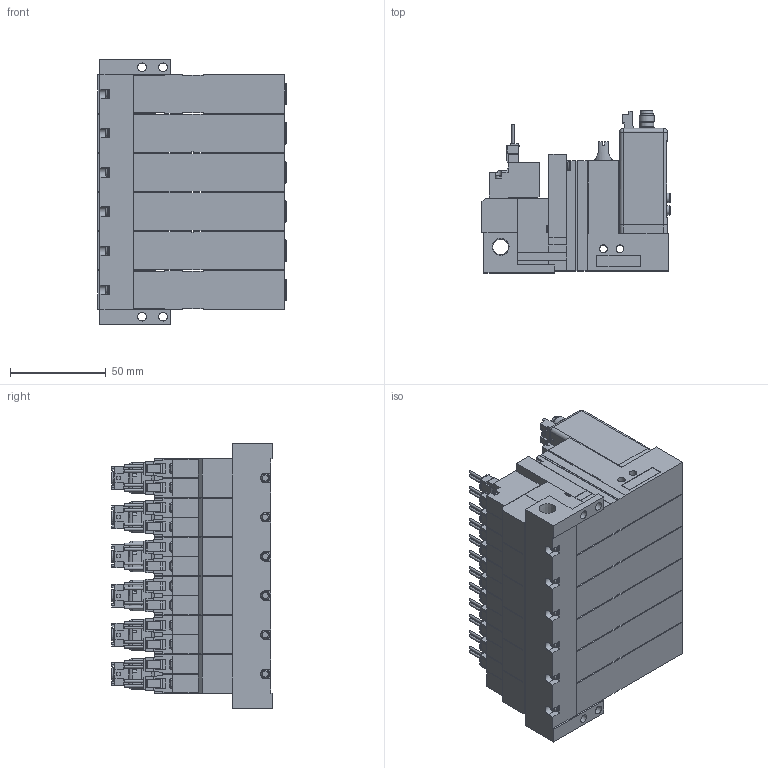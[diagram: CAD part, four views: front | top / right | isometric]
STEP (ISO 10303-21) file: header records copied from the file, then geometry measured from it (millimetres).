
FILE_DESCRIPTION(('STEP AP203'),'1');
FILE_NAME('22_22PLC5BLR606.stp','2025-06-12T05:00:05',(' '),(' '),'Spatial InterOp 3D',' ',' ');
FILE_SCHEMA(('CONFIG_CONTROL_DESIGN'));
Length unit declared in the file: millimetre
Products named in the file (10): BMC22M※※※※22_22PLC5BLR606; Solenoid valve B; Unit LC; Base MR60R; MVS-202
Assembly tree (19 placements, depth 2):
  BMC22M※※※※22_22PLC5BLR606
    Solenoid valve B  x6
    Unit LC  x6
    Base MR60R
    MVS-202
    MVS-202
    MVS-202
    MVS-202
    MVS-202
    MVS-202
Bounding box: 98.5 x 84.6 x 138.5 mm (x, y, z)
Volume: 651999.4 mm3; surface area: 185595 mm2
Topology: 19 solids, 43 shells, 4701 faces, 12257 edges, 7996 vertices
Faces by surface type: plane 3962, cylinder 569, cone 98, torus 48, sphere 24
Full cylindrical faces by diameter (mm): 1 x24, 1.4 x24, 1.5 x6, 2.5 x6, 3 x24, 3.5 x24, 3.6 x6, 4 x12, 4.134 x6, 4.5 x28, 4.8 x18, 5 x12, 5.2 x6, 5.8 x12, 6 x12, 6.5 x18, 6.6 x6, 7 x6, 7.2 x6, 7.9 x6, 8 x12, 8.279 x1
Entity records: 88668 total; most frequent: CARTESIAN_POINT 15995, ORIENTED_EDGE 14504, DIRECTION 14312, EDGE_CURVE 7252, LINE 6116, VECTOR 6116, VERTEX_POINT 4905, AXIS2_PLACEMENT_3D 4098
